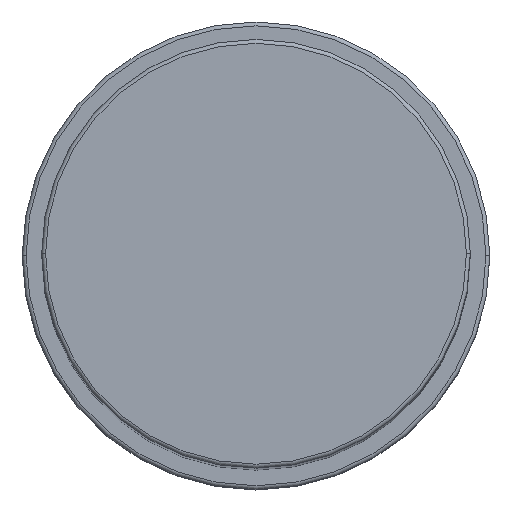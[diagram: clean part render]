
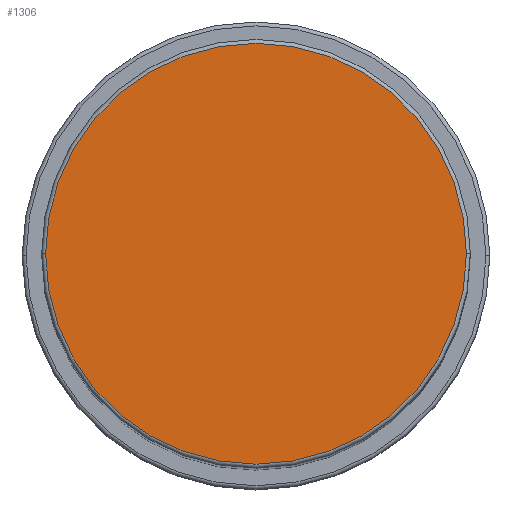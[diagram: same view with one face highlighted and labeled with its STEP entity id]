
A CAD part, top view. The second image highlights one B-rep face of the part: STEP entity #1306.
In plain terms, the highlighted planar face has unit normal (0, 0, 1).
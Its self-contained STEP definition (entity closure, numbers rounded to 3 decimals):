
#92 = CARTESIAN_POINT ( 'NONE',  ( 27., 0., 163. ) ) ;
#187 = FACE_OUTER_BOUND ( 'NONE', #1710, .T. ) ;
#263 = EDGE_CURVE ( 'NONE', #848, #1425, #1562, .T. ) ;
#332 = PLANE ( 'NONE',  #828 ) ;
#382 = CARTESIAN_POINT ( 'NONE',  ( 0., 0., 163. ) ) ;
#421 = ORIENTED_EDGE ( 'NONE', *, *, #263, .T. ) ;
#488 = DIRECTION ( 'NONE',  ( 0., 0., 1. ) ) ;
#527 = ORIENTED_EDGE ( 'NONE', *, *, #549, .T. ) ;
#537 = DIRECTION ( 'NONE',  ( 1., 0., 0. ) ) ;
#549 = EDGE_CURVE ( 'NONE', #1425, #848, #1704, .T. ) ;
#567 = AXIS2_PLACEMENT_3D ( 'NONE', #1101, #1223, #537 ) ;
#584 = CARTESIAN_POINT ( 'NONE',  ( -27., 0., 163. ) ) ;
#828 = AXIS2_PLACEMENT_3D ( 'NONE', #1310, #488, #912 ) ;
#848 = VERTEX_POINT ( 'NONE', #92 ) ;
#912 = DIRECTION ( 'NONE',  ( 1., 0., 0. ) ) ;
#955 = DIRECTION ( 'NONE',  ( 0., 0., 1. ) ) ;
#1101 = CARTESIAN_POINT ( 'NONE',  ( 0., 0., 163. ) ) ;
#1223 = DIRECTION ( 'NONE',  ( 0., 0., 1. ) ) ;
#1229 = AXIS2_PLACEMENT_3D ( 'NONE', #382, #955, #1344 ) ;
#1306 = ADVANCED_FACE ( 'NONE', ( #187 ), #332, .T. ) ;
#1310 = CARTESIAN_POINT ( 'NONE',  ( 0., 0., 163. ) ) ;
#1344 = DIRECTION ( 'NONE',  ( 1., 0., 0. ) ) ;
#1425 = VERTEX_POINT ( 'NONE', #584 ) ;
#1562 = CIRCLE ( 'NONE', #567, 27. ) ;
#1704 = CIRCLE ( 'NONE', #1229, 27. ) ;
#1710 = EDGE_LOOP ( 'NONE', ( #421, #527 ) ) ;
